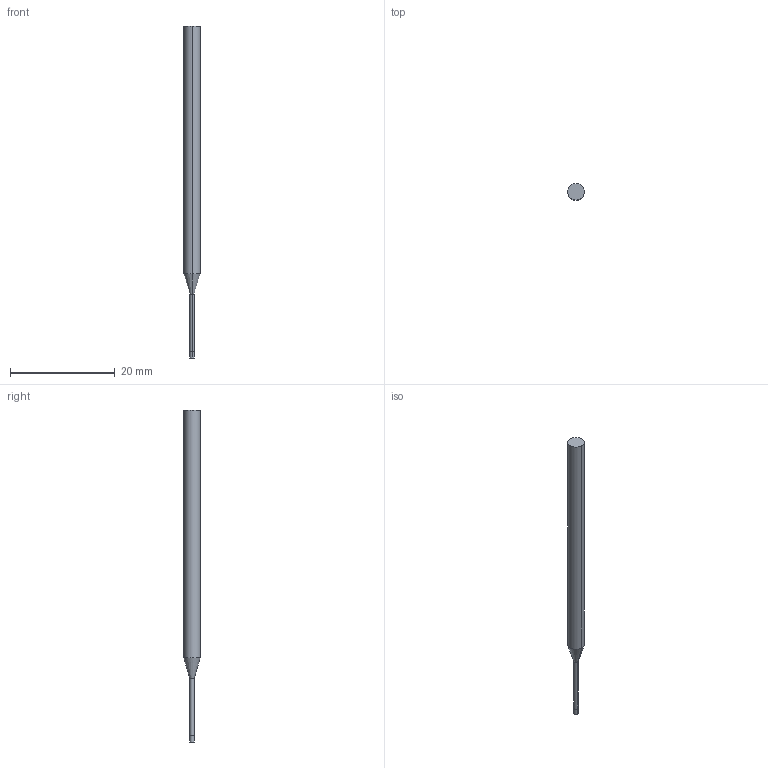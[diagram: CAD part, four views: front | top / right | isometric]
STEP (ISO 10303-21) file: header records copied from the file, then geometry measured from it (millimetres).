
FILE_DESCRIPTION((' '),'2;1');
FILE_NAME( '3MVS0312N15AH.stp', '2026-01-21T19:06:42', (' '), ('--- Datakit www.datakit.com---'), ' Datakit CrossCadWare V2025.4 Sep 19 2025', 'Mastercam 2027', ' ');
FILE_SCHEMA(('AUTOMOTIVE_DESIGN { 1 0 10303 214 1 1 1 1 }'));
Length unit declared in the file: inch
Products named in the file (1): 3MVS0312N15AH
Bounding box: 3.17 x 3.17 x 63.5 mm (x, y, z)
Volume: 394.9 mm3; surface area: 537.1 mm2
Topology: 1 solids, 1 shells, 10 faces, 18 edges, 10 vertices
Faces by surface type: cylinder 6, plane 2, cone 2
Entity records: 323 total; most frequent: DIRECTION 58, CARTESIAN_POINT 43, ORIENTED_EDGE 36, AXIS2_PLACEMENT_3D 25, EDGE_CURVE 18, VERTEX_POINT 10, CIRCLE 10, EDGE_LOOP 10
